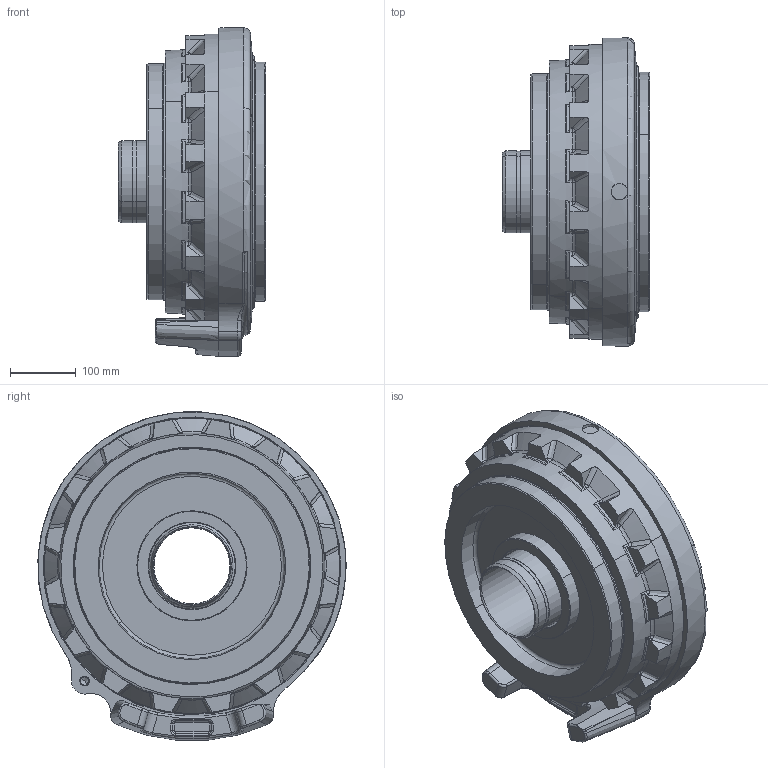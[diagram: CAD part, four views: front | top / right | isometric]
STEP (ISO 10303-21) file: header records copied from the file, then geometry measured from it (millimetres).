
FILE_DESCRIPTION(('CATIA V5 STEP Exchange','CAx-IF Rec.Pracs.--- Model Styling and Organization---1.2---2011-12-15','CAx-IF Rec.Pracs.--- Geometric and Assembly Validation Properties ---3.1---2011-10-19'),'2;1');
FILE_NAME('Z:\ROBOT\CATIA06\products\MC1000DL\Light_model\Step\120_J6_EndEffector_MC1000DL-02.stp','2016-12-26T04:59:23+00:00',('none'),('none'),'Version 5-6 Release 2012','CATIA V5 STEP AP214','none');
FILE_SCHEMA(('AUTOMOTIVE_DESIGN { 1 0 10303 214 1 1 1 1 }'));
Length unit declared in the file: millimetre
Products named in the file (1): 120_J6_EndEffector_MC1000DL-02
Bounding box: 224.5 x 469.85 x 500.98 mm (x, y, z)
Volume: 20770985.9 mm3; surface area: 1587826.6 mm2
Topology: 5 solids, 5 shells, 711 faces, 1695 edges, 983 vertices
Faces by surface type: cylinder 222, cone 167, bspline 119, plane 104, torus 99
Entity records: 25153 total; most frequent: CARTESIAN_POINT 11385, ORIENTED_EDGE 3210, DIRECTION 1892, EDGE_CURVE 1605, AXIS2_PLACEMENT_3D 1076, VERTEX_POINT 983, EDGE_LOOP 798, ADVANCED_FACE 711
